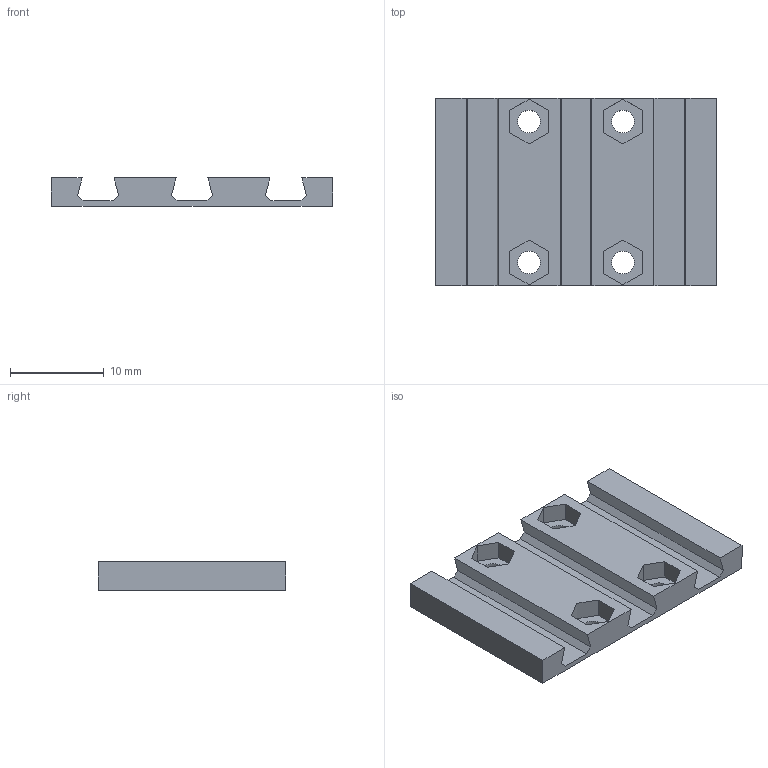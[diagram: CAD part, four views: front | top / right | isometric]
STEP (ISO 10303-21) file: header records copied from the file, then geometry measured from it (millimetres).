
FILE_DESCRIPTION(/* description */ (''),/* implementation_level */ '2;1');
FILE_NAME(/* name */ 'C:/Users/priba/Downloads/brick-spacInverse20x30.step',/* time_stamp */ '2022-04-03T10:15:12+02:00',/* author */ (''),/* organization */ (''),/* preprocessor_version */ 'ST-DEVELOPER v18.1',/* originating_system */ 'Autodesk Translation Framework v10.13.0.1454',/* authorisation */ '');
FILE_SCHEMA (('AUTOMOTIVE_DESIGN { 1 0 10303 214 3 1 1 }'));
Length unit declared in the file: millimetre
Products named in the file (1): brick-spacInverse20x30
Bounding box: 30 x 20 x 3 mm (x, y, z)
Volume: 1095 mm3; surface area: 1870.5 mm2
Topology: 1 solids, 1 shells, 62 faces, 168 edges, 112 vertices
Faces by surface type: plane 58, cylinder 4
Full cylindrical faces by diameter (mm): 2.4 x4
Entity records: 1958 total; most frequent: CARTESIAN_POINT 343, ORIENTED_EDGE 336, DIRECTION 302, EDGE_CURVE 168, LINE 160, VECTOR 160, VERTEX_POINT 112, EDGE_LOOP 74
